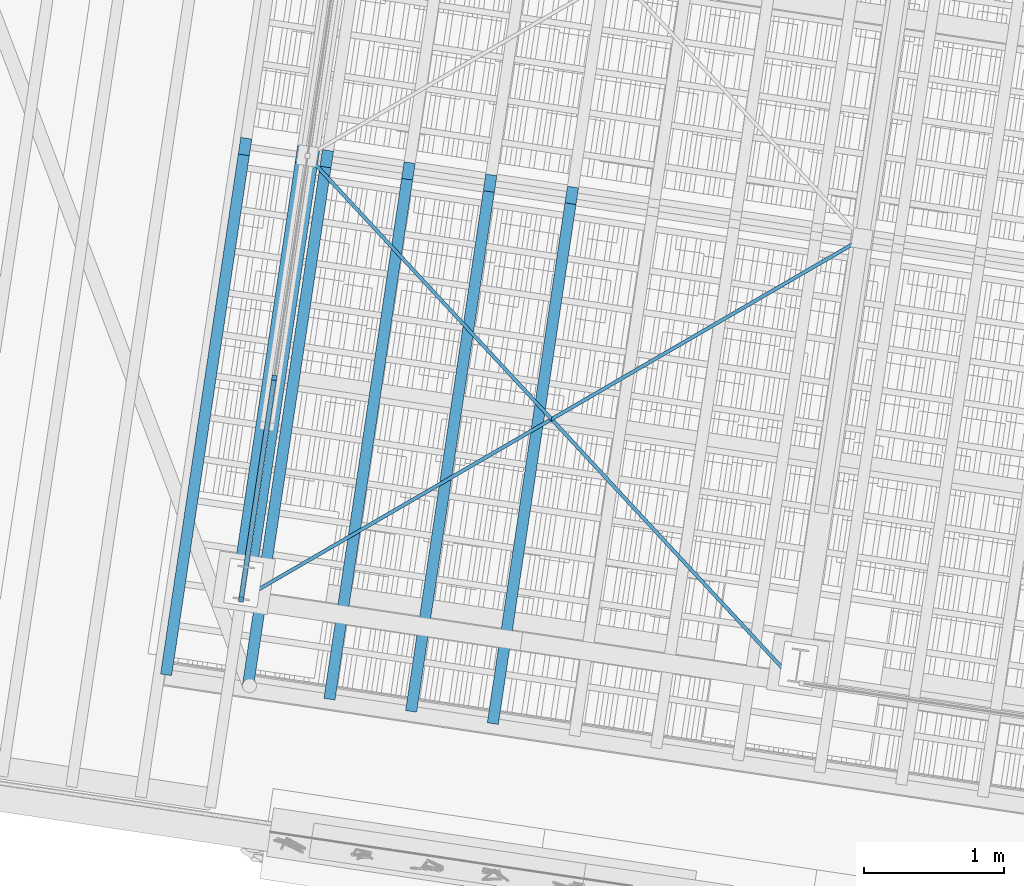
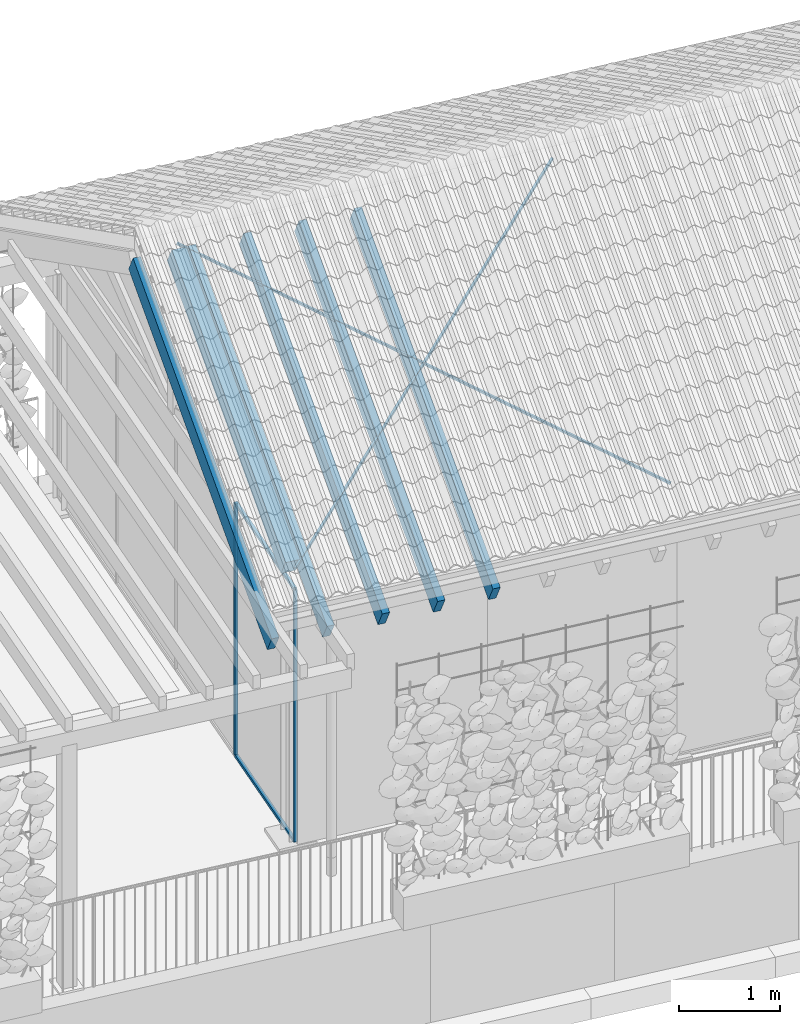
# One storey, part 22 of 128: 13 members, 1 element without a shape of its own.
"""IFC4 building model written with IfcOpenShell, lengths in metres."""

from ifc_helpers import new_model, si_unit, direction, frame, origin_with_axes, place, context, subcontext, project, spatial, rectangle, extrude, material, material_profile, profile_set, profile_usage, type_object, element, aggregate, save


model = new_model("IFC4")

# Units and contexts
model_context = context("Model", 3, precision=1e-05, world=origin_with_axes(), true_north=direction((0.0, 1.0)))
body_context = subcontext(model_context, "Body", "Model", "MODEL_VIEW")
ifc_project = project(units=[si_unit("VOLUMEUNIT", "CUBIC_METRE"), si_unit("LENGTHUNIT", "METRE"), si_unit("AREAUNIT", "SQUARE_METRE")], contexts=[model_context])

# Site, building, storey
site_placement = place(None, origin_with_axes())
site = spatial("IfcSite", under=ifc_project, at=site_placement, Name="Lares · Rua das Mercês · artigo 4771")
building_placement = place(site_placement, frame((15.0, 9.7, 13.9), z_axis=(0.0, 0.0, 1.0), x_axis=(0.989015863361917, -0.147809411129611, 0.0)))
building = spatial("IfcBuilding", under=site, at=building_placement, Name="Casa Sobreposta")
storey_placement = place(building_placement, origin_with_axes())
storey = spatial("IfcBuildingStorey", under=building, at=storey_placement, Name="00 · Habitação e estacionamento", Elevation=13.9)

# Members
ifc_material_1 = material(Name="Aço pintado / Stahl lackiert", Category="steel")
ifc_material_profile_1 = material_profile(ifc_material_1, rectangle(XDim=0.035, YDim=0.035))
ifc_profile_set_1 = profile_set([ifc_material_profile_1], Name="R0.035")
ifc_profile_usage_1 = profile_usage(ifc_profile_set_1)
member_type_1 = type_object("IfcMemberType", Name="R0.035 / steel", PredefinedType="NOTDEFINED", material=ifc_profile_set_1)
member_1_placement = place(storey_placement, origin_with_axes())
element("IfcMember", 1, at=member_1_placement, inside=storey, type_object=member_type_1, material=ifc_profile_usage_1, Name="Fachada poente integralmente envidraçada · módulo 1 · montante", context=body_context, shape_type="SweptSolid", body=[
    extrude(rectangle(XDim=0.035, YDim=0.035), origin_with_axes(), (0.0, 0.0, 1.0), 3.05),
])
ifc_profile_usage_2 = profile_usage(ifc_profile_set_1)
member_2_placement = place(storey_placement, frame((0.0, 1.6, 0.0), z_axis=(0.0, 0.0, 1.0), x_axis=(1.0, 0.0, 0.0)))
element("IfcMember", 2, at=member_2_placement, inside=storey, type_object=member_type_1, material=ifc_profile_usage_2, context=body_context, shape_type="SweptSolid", body=[
    extrude(rectangle(XDim=0.035, YDim=0.035), origin_with_axes(), (0.0, 0.0, 1.0), 3.05),
])
ifc_profile_usage_3 = profile_usage(ifc_profile_set_1)
member_3_placement = place(storey_placement, frame((0.0, 0.0, 0.0), z_axis=(0.0, 1.0, 0.0), x_axis=(1.0, 0.0, 0.0)))
element("IfcMember", 3, at=member_3_placement, inside=storey, type_object=member_type_1, material=ifc_profile_usage_3, Name="Fachada poente integralmente envidraçada · módulo 1 · travessa", context=body_context, shape_type="SweptSolid", body=[
    extrude(rectangle(XDim=0.035, YDim=0.035), origin_with_axes(), (0.0, 0.0, 1.0), 1.6),
])
ifc_profile_usage_4 = profile_usage(ifc_profile_set_1)
member_4_placement = place(storey_placement, frame((0.0, 0.0, 3.05), z_axis=(0.0, 1.0, 0.0), x_axis=(1.0, 0.0, 0.0)))
element("IfcMember", 4, at=member_4_placement, inside=storey, type_object=member_type_1, material=ifc_profile_usage_4, Name="Fachada poente integralmente envidraçada · módulo 1 · travessa", context=body_context, shape_type="SweptSolid", body=[
    extrude(rectangle(XDim=0.035, YDim=0.035), origin_with_axes(), (0.0, 0.0, 1.0), 1.6),
])
ifc_profile_usage_5 = profile_usage(ifc_profile_set_1)
member_5_placement = place(storey_placement, frame((0.0, 1.6, 0.0), z_axis=(0.0, 0.0, 1.0), x_axis=(1.0, 0.0, 0.0)))
element("IfcMember", 5, at=member_5_placement, inside=storey, type_object=member_type_1, material=ifc_profile_usage_5, context=body_context, shape_type="SweptSolid", body=[
    extrude(rectangle(XDim=0.035, YDim=0.035), origin_with_axes(), (0.0, 0.0, 1.0), 3.05),
])

# Roof, members
ifc_material_2 = material(Name="Madeira / Bauholz", Category="wood")
roof_placement = place(storey_placement, origin_with_axes())
roof = element("IfcRoof", 6, at=roof_placement, inside=storey, material=ifc_material_2, Name="Cobertura de telha · duas águas 30 graus", PredefinedType="GABLE_ROOF")
ifc_material_profile_2 = material_profile(ifc_material_2, rectangle(XDim=0.16, YDim=0.24))
ifc_profile_set_2 = profile_set([ifc_material_profile_2], Name="TIMBER0.160x0.240")
ifc_profile_usage_6 = profile_usage(ifc_profile_set_2)
member_type_2 = type_object("IfcMemberType", Name="TIMBER0.160x0.240 / timber", PredefinedType="NOTDEFINED", material=ifc_profile_set_2)
member_6_placement = place(roof_placement, frame((0.0, 0.12, 3.24428203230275), z_axis=(0.0, 0.866025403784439, 0.5), x_axis=(1.0, 0.0, 0.0)))
member_6 = element("IfcMember", 7, at=member_6_placement, type_object=member_type_2, material=ifc_profile_usage_6, Name="Tesoura · perna", context=body_context, shape_type="SweptSolid", body=[
    extrude(rectangle(XDim=0.16, YDim=0.24), origin_with_axes(), (0.0, 0.0, 1.0), 3.5564776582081),
])
ifc_material_profile_3 = material_profile(ifc_material_2, rectangle(XDim=0.08, YDim=0.24))
ifc_profile_set_3 = profile_set([ifc_material_profile_3], Name="TIMBER0.080x0.240")
ifc_profile_usage_7 = profile_usage(ifc_profile_set_3)
member_type_3 = type_object("IfcMemberType", Name="TIMBER0.080x0.240 / timber", PredefinedType="NOTDEFINED", material=ifc_profile_set_3)
member_7_placement = place(roof_placement, frame((-0.45, -0.55, 2.86345735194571), z_axis=(0.0, 0.866025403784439, 0.5), x_axis=(1.0, 0.0, 0.0)))
member_7 = element("IfcMember", 8, at=member_7_placement, type_object=member_type_3, material=ifc_profile_usage_7, Name="Cobertura · caibro", context=body_context, shape_type="SweptSolid", body=[
    extrude(rectangle(XDim=0.08, YDim=0.24), origin_with_axes(), (0.0, 0.0, 1.0), 4.33012701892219),
])
ifc_profile_usage_8 = profile_usage(ifc_profile_set_3)
member_8_placement = place(roof_placement, frame((0.139056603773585, -0.55, 2.86345735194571), z_axis=(0.0, 0.866025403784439, 0.5), x_axis=(1.0, 0.0, 0.0)))
member_8 = element("IfcMember", 9, at=member_8_placement, type_object=member_type_3, material=ifc_profile_usage_8, Name="Cobertura · caibro", context=body_context, shape_type="SweptSolid", body=[
    extrude(rectangle(XDim=0.08, YDim=0.24), origin_with_axes(), (0.0, 0.0, 1.0), 4.33012701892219),
])
ifc_profile_usage_9 = profile_usage(ifc_profile_set_3)
member_9_placement = place(roof_placement, frame((0.72811320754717, -0.55, 2.86345735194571), z_axis=(0.0, 0.866025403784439, 0.5), x_axis=(1.0, 0.0, 0.0)))
member_9 = element("IfcMember", 10, at=member_9_placement, type_object=member_type_3, material=ifc_profile_usage_9, Name="Cobertura · caibro", context=body_context, shape_type="SweptSolid", body=[
    extrude(rectangle(XDim=0.08, YDim=0.24), origin_with_axes(), (0.0, 0.0, 1.0), 4.33012701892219),
])
ifc_profile_usage_10 = profile_usage(ifc_profile_set_3)
member_10_placement = place(roof_placement, frame((1.31716981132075, -0.55, 2.86345735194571), z_axis=(0.0, 0.866025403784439, 0.5), x_axis=(1.0, 0.0, 0.0)))
member_10 = element("IfcMember", 11, at=member_10_placement, type_object=member_type_3, material=ifc_profile_usage_10, Name="Cobertura · caibro", context=body_context, shape_type="SweptSolid", body=[
    extrude(rectangle(XDim=0.08, YDim=0.24), origin_with_axes(), (0.0, 0.0, 1.0), 4.33012701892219),
])
ifc_profile_usage_11 = profile_usage(ifc_profile_set_3)
member_11_placement = place(roof_placement, frame((1.90622641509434, -0.55, 2.86345735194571), z_axis=(0.0, 0.866025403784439, 0.5), x_axis=(1.0, 0.0, 0.0)))
member_11 = element("IfcMember", 12, at=member_11_placement, type_object=member_type_3, material=ifc_profile_usage_11, Name="Cobertura · caibro", context=body_context, shape_type="SweptSolid", body=[
    extrude(rectangle(XDim=0.08, YDim=0.24), origin_with_axes(), (0.0, 0.0, 1.0), 4.33012701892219),
])
ifc_material_3 = material(Name="Aço galvanizado / Stahl verzinkt", Category="steel")
ifc_material_profile_4 = material_profile(ifc_material_3, rectangle(XDim=0.025, YDim=0.025))
ifc_profile_set_4 = profile_set([ifc_material_profile_4], Name="R0.025")
ifc_profile_usage_12 = profile_usage(ifc_profile_set_4)
member_type_4 = type_object("IfcMemberType", Name="R0.025 / galvanized", PredefinedType="NOTDEFINED", material=ifc_profile_set_4)
member_12_placement = place(roof_placement, frame((0.0, 0.0, 3.302), z_axis=(0.734553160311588, 0.58764252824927, 0.339275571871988), x_axis=(0.624695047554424, -0.78086880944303, 0.0)))
member_12 = element("IfcMember", 13, at=member_12_placement, type_object=member_type_4, material=ifc_profile_usage_12, Name="Cobertura · fita de contraventamento", context=body_context, shape_type="SweptSolid", body=[
    extrude(rectangle(XDim=0.025, YDim=0.025), origin_with_axes(), (0.0, 0.0, 1.0), 5.44548742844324),
])
ifc_profile_usage_13 = profile_usage(ifc_profile_set_4)
member_13_placement = place(roof_placement, frame((0.0, 3.2, 5.1495208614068), z_axis=(0.734553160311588, -0.58764252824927, -0.339275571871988), x_axis=(-0.624695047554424, -0.78086880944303, 0.0)))
member_13 = element("IfcMember", 14, at=member_13_placement, type_object=member_type_4, material=ifc_profile_usage_13, Name="Cobertura · fita de contraventamento", context=body_context, shape_type="SweptSolid", body=[
    extrude(rectangle(XDim=0.025, YDim=0.025), origin_with_axes(), (0.0, 0.0, 1.0), 5.44548742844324),
])
aggregate(roof, [member_6, member_7, member_8, member_9, member_10, member_11, member_12, member_13])

save(model, "model.ifc")
